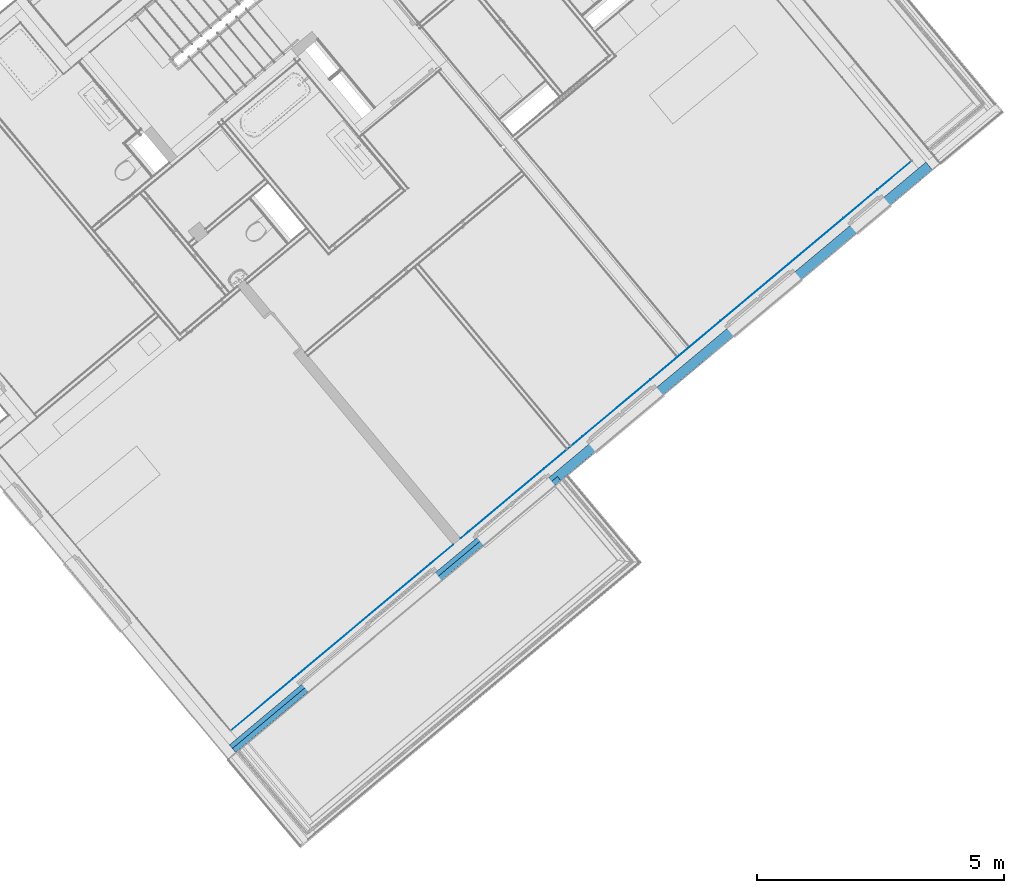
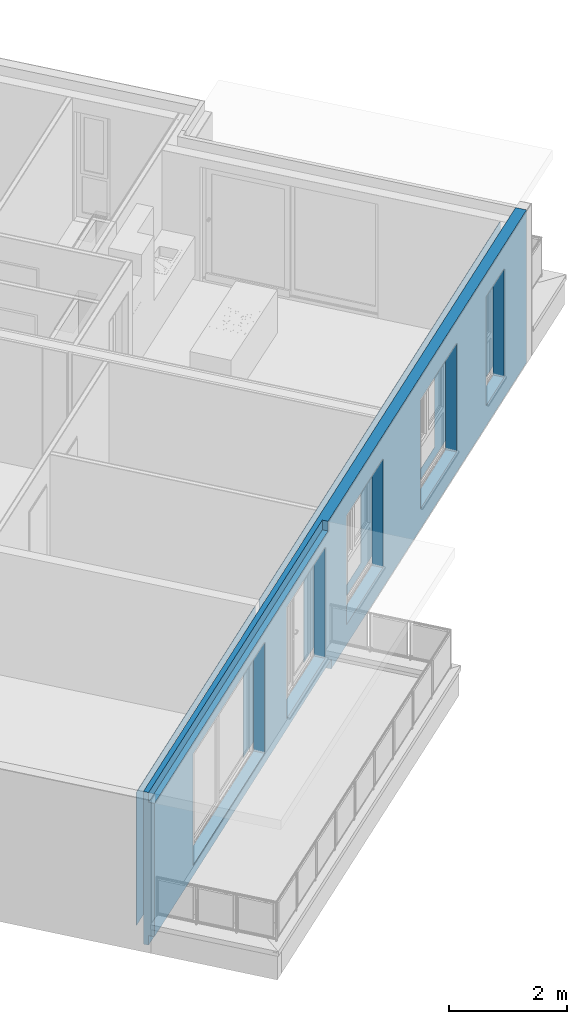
# One storey, part 21 of 50: 2 building element parts, 5 openings, 1 element without a shape of its own.
"""IFC4 building model written with IfcOpenShell, lengths in metres."""

from ifc_helpers import new_model, entity, si_unit, converted_unit, derived_unit, direction, frame, origin_with_axes, place, context, subcontext, project, spatial, polygons, material, type_object, element, aggregate, save


model = new_model("IFC4")

# Units and contexts
model_context = context("Model", 3, precision=1e-05, world=origin_with_axes(), true_north=direction((0.0, 1.0)))
body_context = subcontext(model_context, "Body", "Model", "MODEL_VIEW")
ifc_project = project(units=[si_unit("LENGTHUNIT", "METRE"), si_unit("AREAUNIT", "SQUARE_METRE"), si_unit("VOLUMEUNIT", "CUBIC_METRE"), converted_unit("PLANEANGLEUNIT", "DEGREE", entity("IfcPlaneAngleMeasure", 0.0174532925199), si_unit("PLANEANGLEUNIT", "RADIAN"), dimensions=[0, 0, 0, 0, 0, 0, 0]), converted_unit("TIMEUNIT", "Year", entity("IfcTimeMeasure", 31556926.0), si_unit("TIMEUNIT", "SECOND"), dimensions=[0, 0, 1, 0, 0, 0, 0]), si_unit("MASSUNIT", "GRAM", prefix="KILO"), si_unit("THERMODYNAMICTEMPERATUREUNIT", "DEGREE_CELSIUS"), si_unit("LUMINOUSINTENSITYUNIT", "LUMEN"), si_unit("ENERGYUNIT", "JOULE", prefix="MEGA"), derived_unit("THERMALCONDUCTANCEUNIT", [(si_unit("POWERUNIT", "WATT"), 1), (si_unit("LENGTHUNIT", "METRE"), -1), (si_unit("THERMODYNAMICTEMPERATUREUNIT", "KELVIN"), -1)]), derived_unit("SPECIFICHEATCAPACITYUNIT", [(si_unit("ENERGYUNIT", "JOULE"), 1), (si_unit("MASSUNIT", "GRAM", prefix="KILO"), -1), (si_unit("THERMODYNAMICTEMPERATUREUNIT", "KELVIN"), -1)]), derived_unit("MASSDENSITYUNIT", [(si_unit("MASSUNIT", "GRAM", prefix="KILO"), 1), (si_unit("VOLUMEUNIT", "CUBIC_METRE"), -1)])], contexts=[model_context])

# Site, building, storey
site_placement = place(None, frame((-0.00153261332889, -0.00661245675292, 0.0), z_axis=(0.0, 0.0, 1.0), x_axis=(1.0, 0.0, 0.0)))
site = spatial("IfcSite", under=ifc_project, at=site_placement, Name="Site", CompositionType="ELEMENT")
building_placement = place(site_placement, origin_with_axes())
building = spatial("IfcBuilding", under=site, at=building_placement, Name="Building", CompositionType="ELEMENT")
storey_placement = place(building_placement, frame((0.0, 0.0, 2.74), z_axis=(0.0, 0.0, 1.0), x_axis=(1.0, 0.0, 0.0)))
storey = spatial("IfcBuildingStorey", under=building, at=storey_placement, Name="OG1", CompositionType="ELEMENT", Elevation=2.74)

# Wall, openings, building element parts
wall_type = type_object("IfcWallType", Name="AW EG 420", PredefinedType="NOTDEFINED")
wall_placement = place(storey_placement, frame((-1.03404021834, 8.2036526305, -0.2), z_axis=(0.0, 0.0, 1.0), x_axis=(0.766948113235, 0.641709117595, 0.0)))
wall = element("IfcWall", 1, at=wall_placement, inside=storey, type_object=wall_type, Name="Wand-003", PredefinedType="NOTDEFINED")
opening_1_placement = place(wall_placement, frame((10.6004380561, 0.0, 0.42), z_axis=(0.0, 0.0, 1.0), x_axis=(1.0, 0.0, 0.0)))
element("IfcOpeningElement", 2, at=opening_1_placement, cuts=wall, Name="Fenster-001", context=body_context, identifier="Reference", shape_type="Tessellation", body=[
    polygons([(0.9, 0.215, 0.0), (0.9, 0.215, 2.26), (0.9, -9.26201689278, 2.26), (0.9, -9.26201689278, 0.0), (0.9, 9.68201689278, 0.0), (0.9, 9.68201689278, 2.26), (-0.9, 0.215, 2.26), (-0.9, -9.26201689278, 2.26), (-0.9, 9.68201689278, 2.26), (-0.9, -9.26201689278, 0.0), (-0.9, 0.215, 0.0), (-0.9, 9.68201689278, 0.0)], [[[1, 2, 3, 4]], [[2, 1, 5, 6]], [[7, 8, 3, 2, 6, 9]], [[8, 10, 4, 3]], [[1, 4, 10, 11, 12, 5]], [[6, 5, 12, 9]], [[7, 11, 10, 8]], [[11, 7, 9, 12]]], closed=True),
])
opening_2_placement = place(wall_placement, frame((14.2457711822, 0.0, 0.42), z_axis=(0.0, 0.0, 1.0), x_axis=(1.0, 0.0, 0.0)))
element("IfcOpeningElement", 3, at=opening_2_placement, cuts=wall, Name="Fenster-001", context=body_context, identifier="Reference", shape_type="Tessellation", body=[
    polygons([(0.9, 0.215, 0.0), (0.9, 0.215, 2.26), (0.9, -9.26201689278, 2.26), (0.9, -9.26201689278, 0.0), (0.9, 9.68201689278, 0.0), (0.9, 9.68201689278, 2.26), (-0.9, 0.215, 2.26), (-0.9, -9.26201689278, 2.26), (-0.9, 9.68201689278, 2.26), (-0.9, -9.26201689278, 0.0), (-0.9, 0.215, 0.0), (-0.9, 9.68201689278, 0.0)], [[[1, 2, 3, 4]], [[2, 1, 5, 6]], [[7, 8, 3, 2, 6, 9]], [[8, 10, 4, 3]], [[1, 4, 10, 11, 12, 5]], [[6, 5, 12, 9]], [[7, 11, 10, 8]], [[11, 7, 9, 12]]], closed=True),
])
opening_3_placement = place(wall_placement, frame((17.0441783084, 0.0, 0.42), z_axis=(0.0, 0.0, 1.0), x_axis=(1.0, 0.0, 0.0)))
element("IfcOpeningElement", 4, at=opening_3_placement, cuts=wall, Name="Fenster-001", context=body_context, identifier="Reference", shape_type="Tessellation", body=[
    polygons([(0.45, 0.215, 0.0), (0.45, 0.215, 2.26), (0.45, -9.26201689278, 2.26), (0.45, -9.26201689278, 0.0), (0.45, 9.68201689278, 0.0), (0.45, 9.68201689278, 2.26), (-0.45, 0.215, 2.26), (-0.45, -9.26201689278, 2.26), (-0.45, 9.68201689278, 2.26), (-0.45, -9.26201689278, 0.0), (-0.45, 0.215, 0.0), (-0.45, 9.68201689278, 0.0)], [[[1, 2, 3, 4]], [[2, 1, 5, 6]], [[7, 8, 3, 2, 6, 9]], [[8, 10, 4, 3]], [[1, 4, 10, 11, 12, 5]], [[6, 5, 12, 9]], [[7, 11, 10, 8]], [[11, 7, 9, 12]]], closed=True),
])
opening_4_placement = place(wall_placement, frame((7.69593230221, 0.0, 0.42), z_axis=(0.0, 0.0, 1.0), x_axis=(1.0, 0.0, 0.0)))
element("IfcOpeningElement", 5, at=opening_4_placement, cuts=wall, Name="Tür-002", context=body_context, identifier="Reference", shape_type="Tessellation", body=[
    polygons([(0.95, 0.215, 0.0), (0.95, 0.215, 2.31), (0.95, -9.26201689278, 2.31), (0.95, -9.26201689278, 0.0), (-1.0, 0.215, -0.22), (1.0, 0.215, -0.22), (1.0, 0.215, 2.36), (-1.0, 0.215, 2.36), (-0.95, 0.215, 2.31), (-0.95, 0.215, 0.0), (-0.95, -9.26201689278, 2.31), (-0.95, -9.26201689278, 0.0), (-1.0, 9.68201689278, -0.22), (1.0, 9.68201689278, -0.22), (1.0, 9.68201689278, 2.36), (-1.0, 9.68201689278, 2.36)], [[[1, 2, 3, 4]], [[5, 6, 7, 8], [9, 2, 1, 10]], [[2, 9, 11, 3]], [[11, 12, 4, 3]], [[10, 1, 4, 12]], [[6, 5, 13, 14]], [[7, 6, 14, 15]], [[8, 7, 15, 16]], [[5, 8, 16, 13]], [[9, 10, 12, 11]], [[15, 14, 13, 16]]], closed=True),
])
opening_5_placement = place(wall_placement, frame((3.88935344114, 0.0, 0.42), z_axis=(0.0, 0.0, 1.0), x_axis=(1.0, 0.0, 0.0)))
element("IfcOpeningElement", 6, at=opening_5_placement, cuts=wall, Name="Tür-001", context=body_context, identifier="Reference", shape_type="Tessellation", body=[
    polygons([(1.76598893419, 0.215, 0.0), (1.76598893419, 0.215, 2.31), (1.76598893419, -9.26201689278, 2.31), (1.76598893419, -9.26201689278, 0.0), (-1.81598893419, 0.215, -0.22), (1.81598893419, 0.215, -0.22), (1.81598893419, 0.215, 2.36), (-1.81598893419, 0.215, 2.36), (-1.76598893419, 0.215, 2.31), (-1.76598893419, 0.215, 0.0), (-1.76598893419, -9.26201689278, 2.31), (-1.76598893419, -9.26201689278, 0.0), (-1.81598893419, 9.68201689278, -0.22), (1.81598893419, 9.68201689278, -0.22), (1.81598893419, 9.68201689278, 2.36), (-1.81598893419, 9.68201689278, 2.36)], [[[1, 2, 3, 4]], [[5, 6, 7, 8], [9, 2, 1, 10]], [[2, 9, 11, 3]], [[11, 12, 4, 3]], [[10, 1, 4, 12]], [[6, 5, 13, 14]], [[7, 6, 14, 15]], [[8, 7, 15, 16]], [[5, 8, 16, 13]], [[9, 10, 12, 11]], [[15, 14, 13, 16]]], closed=True),
])
ifc_material_1 = material(Name="Zementputz")
building_element_part_1_placement = place(wall_placement, origin_with_axes())
building_element_part_1 = element("IfcBuildingElementPart", 7, at=building_element_part_1_placement, material=ifc_material_1, Name="Zementputz", PredefinedType="NOTDEFINED", context=body_context, shape_type="Tessellation", body=[
    polygons([(2.07336450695, 0.415, 0.2), (2.07336450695, 0.415, 2.78), (5.70534237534, 0.415, 2.78), (5.70534237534, 0.415, 0.2), (6.28972936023, 0.415, 0.2), (6.28972936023, 0.415, 2.96), (0.420433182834, 0.415, 2.96), (0.420433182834, 0.415, 0.2), (2.07336450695, 0.42, 0.2), (2.07336450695, 0.42, 2.78), (5.70534237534, 0.42, 2.78), (5.70534237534, 0.42, 0.2), (6.28973261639, 0.42, 0.2), (6.28973261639, 0.42, 2.96), (0.420438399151, 0.42, 2.96), (0.420438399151, 0.42, 0.2)], [[[1, 2, 3, 4, 5, 6, 7, 8]], [[2, 1, 9, 10]], [[3, 2, 10, 11]], [[4, 3, 11, 12]], [[4, 12, 13, 5]], [[6, 5, 13, 14]], [[6, 14, 15, 7]], [[15, 16, 8, 7]], [[9, 1, 8, 16]], [[10, 9, 16, 15, 14, 13, 12, 11]]], closed=True),
    polygons([(6.69593230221, 0.415, 0.2), (6.69593230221, 0.415, 2.78), (8.69593230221, 0.415, 2.78), (8.69593230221, 0.415, 0.2), (18.3974477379, 0.415, 0.2), (18.3974477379, 0.415, 2.96), (6.48972940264, 0.415, 2.96), (6.48972940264, 0.415, 0.2), (11.5004380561, 0.415, 0.42), (9.70043805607, 0.415, 0.42), (9.70043805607, 0.415, 2.68), (11.5004380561, 0.415, 2.68), (15.1457711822, 0.415, 2.68), (15.1457711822, 0.415, 0.42), (13.3457711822, 0.415, 0.42), (13.3457711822, 0.415, 2.68), (16.5941783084, 0.415, 2.68), (17.4941783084, 0.415, 2.68), (17.4941783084, 0.415, 0.42), (16.5941783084, 0.415, 0.42), (6.69593230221, 0.42, 0.2), (6.69593230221, 0.42, 2.78), (8.69593230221, 0.42, 2.78), (8.69593230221, 0.42, 0.2), (18.397450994, 0.42, 0.2), (18.397450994, 0.42, 2.96), (6.4897326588, 0.42, 2.96), (6.4897326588, 0.42, 0.2), (9.70043805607, 0.42, 0.42), (11.5004380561, 0.42, 0.42), (9.70043805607, 0.42, 2.68), (11.5004380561, 0.42, 2.68), (15.1457711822, 0.42, 2.68), (15.1457711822, 0.42, 0.42), (13.3457711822, 0.42, 0.42), (13.3457711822, 0.42, 2.68), (16.5941783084, 0.42, 2.68), (17.4941783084, 0.42, 2.68), (17.4941783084, 0.42, 0.42), (16.5941783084, 0.42, 0.42)], [[[1, 2, 3, 4, 5, 6, 7, 8], [9, 10, 11, 12], [13, 14, 15, 16], [17, 18, 19, 20]], [[2, 1, 21, 22]], [[3, 2, 22, 23]], [[4, 3, 23, 24]], [[4, 24, 25, 5]], [[26, 6, 5, 25]], [[7, 6, 26, 27]], [[7, 27, 28, 8]], [[21, 1, 8, 28]], [[29, 10, 9, 30]], [[31, 11, 10, 29]], [[32, 12, 11, 31]], [[30, 9, 12, 32]], [[33, 34, 14, 13]], [[34, 35, 15, 14]], [[35, 36, 16, 15]], [[36, 33, 13, 16]], [[17, 37, 38, 18]], [[18, 38, 39, 19]], [[19, 39, 40, 20]], [[20, 40, 37, 17]], [[22, 21, 28, 27, 26, 25, 24, 23], [31, 29, 30, 32], [33, 36, 35, 34], [39, 38, 37, 40]]], closed=True),
])
ifc_material_2 = material(Name="EPS 1")
building_element_part_2_placement = place(wall_placement, origin_with_axes())
building_element_part_2 = element("IfcBuildingElementPart", 8, at=building_element_part_2_placement, material=ifc_material_2, Name="EPS 1", PredefinedType="NOTDEFINED", context=body_context, shape_type="Tessellation", body=[
    polygons([(18.602317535, 0.215, 3.16), (18.602317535, 0.215, 0.0), (0.215224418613, 0.215, 0.0), (0.215224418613, 0.215, 3.16), (9.70043805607, 0.215, 0.42), (11.5004380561, 0.215, 0.42), (11.5004380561, 0.215, 2.68), (9.70043805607, 0.215, 2.68), (13.3457711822, 0.215, 2.68), (13.3457711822, 0.215, 0.42), (15.1457711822, 0.215, 0.42), (15.1457711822, 0.215, 2.68), (17.4941783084, 0.215, 2.68), (16.5941783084, 0.215, 2.68), (16.5941783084, 0.215, 0.42), (17.4941783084, 0.215, 0.42), (8.64593230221, 0.215, 0.42), (8.64593230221, 0.215, 2.73), (6.74593230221, 0.215, 2.73), (6.74593230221, 0.215, 0.42), (2.12336450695, 0.215, 0.42), (5.65534237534, 0.215, 0.42), (5.65534237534, 0.215, 2.73), (2.12336450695, 0.215, 2.73), (18.6021872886, 0.015, 0.0), (18.6021872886, 0.015, 3.16), (8.94882163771, 0.015, 0.0), (8.94896462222, 0.117575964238, 0.0), (0.215125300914, 0.119992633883, 0.0), (0.215125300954, 0.119992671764, 2.96), (0.215125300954, 0.119992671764, 3.16), (0.215125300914, 0.119992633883, 0.2), (0.215015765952, 0.015, 0.2), (0.215015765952, 0.015, 2.96), (8.79433640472, 0.015, 3.16), (8.79448343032, 0.119985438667, 3.16), (9.70043805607, 0.015, 0.42), (11.5004380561, 0.015, 0.42), (11.5004380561, 0.015, 2.68), (9.70043805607, 0.015, 2.68), (13.3457711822, 0.015, 2.68), (13.3457711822, 0.015, 0.42), (15.1457711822, 0.015, 0.42), (15.1457711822, 0.015, 2.68), (17.4941783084, 0.015, 2.68), (16.5941783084, 0.015, 2.68), (16.5941783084, 0.015, 0.42), (17.4941783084, 0.015, 0.42), (8.64593230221, 0.015, 2.73), (8.64593230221, 0.015, 0.42), (6.74593230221, 0.015, 2.73), (6.74593230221, 0.015, 0.42), (2.12336450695, 0.015, 0.42), (5.65534237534, 0.015, 0.42), (5.65534237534, 0.015, 2.73), (2.12336450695, 0.015, 2.73), (8.79433640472, 0.015, 2.96), (8.94882163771, 0.015, 0.2), (8.94896462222, 0.117575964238, 0.2), (8.79448343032, 0.119985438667, 2.96)], [[[1, 2, 3, 4], [5, 6, 7, 8], [9, 10, 11, 12], [13, 14, 15, 16], [17, 18, 19, 20], [21, 22, 23, 24]], [[25, 2, 1, 26]], [[3, 2, 25, 27, 28, 29]], [[30, 31, 4, 3, 29, 32, 33, 34]], [[35, 26, 1, 4, 31, 36]], [[37, 38, 6, 5]], [[38, 39, 7, 6]], [[39, 40, 8, 7]], [[40, 37, 5, 8]], [[9, 41, 42, 10]], [[10, 42, 43, 11]], [[11, 43, 44, 12]], [[12, 44, 41, 9]], [[14, 13, 45, 46]], [[15, 14, 46, 47]], [[16, 15, 47, 48]], [[13, 16, 48, 45]], [[49, 18, 17, 50]], [[51, 19, 18, 49]], [[52, 20, 19, 51]], [[50, 17, 20, 52]], [[53, 54, 22, 21]], [[54, 55, 23, 22]], [[55, 56, 24, 23]], [[56, 53, 21, 24]], [[57, 34, 33, 58, 27, 25, 26, 35], [37, 40, 39, 38], [43, 42, 41, 44], [45, 48, 47, 46], [51, 49, 50, 52], [53, 56, 55, 54]], [[27, 58, 59, 28]], [[29, 28, 59, 32]], [[36, 31, 30, 60]], [[58, 33, 32, 59]], [[34, 57, 60, 30]], [[57, 35, 36, 60]]], closed=True),
])
aggregate(wall, [building_element_part_1, building_element_part_2])

save(model, "model.ifc")
